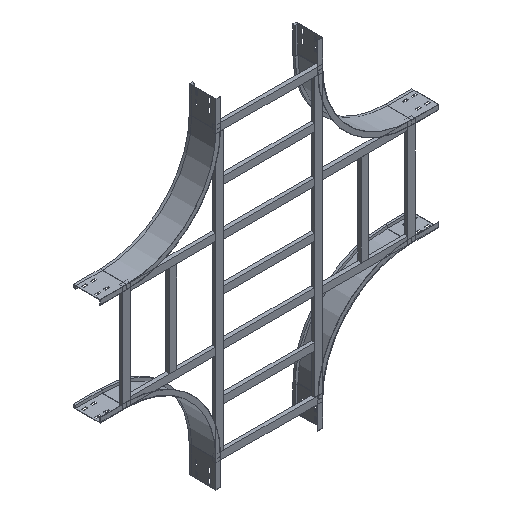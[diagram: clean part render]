
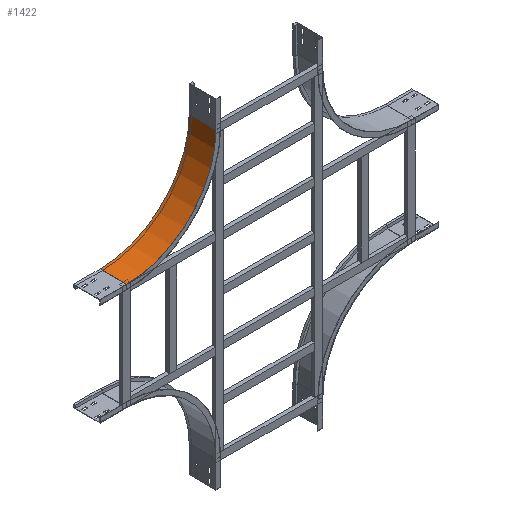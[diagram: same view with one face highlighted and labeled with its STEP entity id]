
A CAD part, isometric view. The second image highlights one B-rep face of the part: STEP entity #1422.
In plain terms, the highlighted cylindrical face has radius 500 mm (diameter 1000 mm), a partial arc.
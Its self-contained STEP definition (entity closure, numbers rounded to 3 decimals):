
#85 = AXIS2_PLACEMENT_3D ( 'NONE', #2643, #619, #679 ) ;
#89 = DIRECTION ( 'NONE',  ( 0., 1., 0. ) ) ;
#181 = LINE ( 'NONE', #1101, #1208 ) ;
#198 = ORIENTED_EDGE ( 'NONE', *, *, #486, .T. ) ;
#340 = DIRECTION ( 'NONE',  ( 0., 0., -1. ) ) ;
#344 = CARTESIAN_POINT ( 'NONE',  ( 500., 0., -650. ) ) ;
#464 = ORIENTED_EDGE ( 'NONE', *, *, #2424, .F. ) ;
#486 = EDGE_CURVE ( 'NONE', #2186, #848, #1380, .T. ) ;
#619 = DIRECTION ( 'NONE',  ( 0., -1., 0. ) ) ;
#626 = DIRECTION ( 'NONE',  ( 0., 1., 0. ) ) ;
#679 = DIRECTION ( 'NONE',  ( -1., 0., 0. ) ) ;
#767 = CARTESIAN_POINT ( 'NONE',  ( 0., 0., -150. ) ) ;
#848 = VERTEX_POINT ( 'NONE', #344 ) ;
#888 = AXIS2_PLACEMENT_3D ( 'NONE', #2272, #999, #1884 ) ;
#999 = DIRECTION ( 'NONE',  ( 0., -1., 0. ) ) ;
#1029 = FACE_OUTER_BOUND ( 'NONE', #1087, .T. ) ;
#1054 = VERTEX_POINT ( 'NONE', #1332 ) ;
#1087 = EDGE_LOOP ( 'NONE', ( #2308, #464, #198, #1720 ) ) ;
#1101 = CARTESIAN_POINT ( 'NONE',  ( 500., 0., -650. ) ) ;
#1111 = VECTOR ( 'NONE', #89, 1000. ) ;
#1208 = VECTOR ( 'NONE', #626, 1000. ) ;
#1214 = EDGE_CURVE ( 'NONE', #1235, #1054, #1361, .T. ) ;
#1235 = VERTEX_POINT ( 'NONE', #1408 ) ;
#1244 = CARTESIAN_POINT ( 'NONE',  ( 500., 0., -150. ) ) ;
#1332 = CARTESIAN_POINT ( 'NONE',  ( 500., 150., -650. ) ) ;
#1361 = CIRCLE ( 'NONE', #888, 500. ) ;
#1380 = CIRCLE ( 'NONE', #85, 500. ) ;
#1408 = CARTESIAN_POINT ( 'NONE',  ( 0., 150., -150. ) ) ;
#1422 = ADVANCED_FACE ( 'NONE', ( #1029 ), #2355, .F. ) ;
#1525 = CARTESIAN_POINT ( 'NONE',  ( 0., 0., -150. ) ) ;
#1720 = ORIENTED_EDGE ( 'NONE', *, *, #2305, .T. ) ;
#1884 = DIRECTION ( 'NONE',  ( -1., 0., 0. ) ) ;
#2132 = DIRECTION ( 'NONE',  ( 0., -1., 0. ) ) ;
#2186 = VERTEX_POINT ( 'NONE', #1525 ) ;
#2272 = CARTESIAN_POINT ( 'NONE',  ( 500., 150., -150. ) ) ;
#2305 = EDGE_CURVE ( 'NONE', #848, #1054, #181, .T. ) ;
#2308 = ORIENTED_EDGE ( 'NONE', *, *, #1214, .F. ) ;
#2355 = CYLINDRICAL_SURFACE ( 'NONE', #2529, 500. ) ;
#2424 = EDGE_CURVE ( 'NONE', #2186, #1235, #2534, .T. ) ;
#2529 = AXIS2_PLACEMENT_3D ( 'NONE', #1244, #2132, #340 ) ;
#2534 = LINE ( 'NONE', #767, #1111 ) ;
#2643 = CARTESIAN_POINT ( 'NONE',  ( 500., 0., -150. ) ) ;
